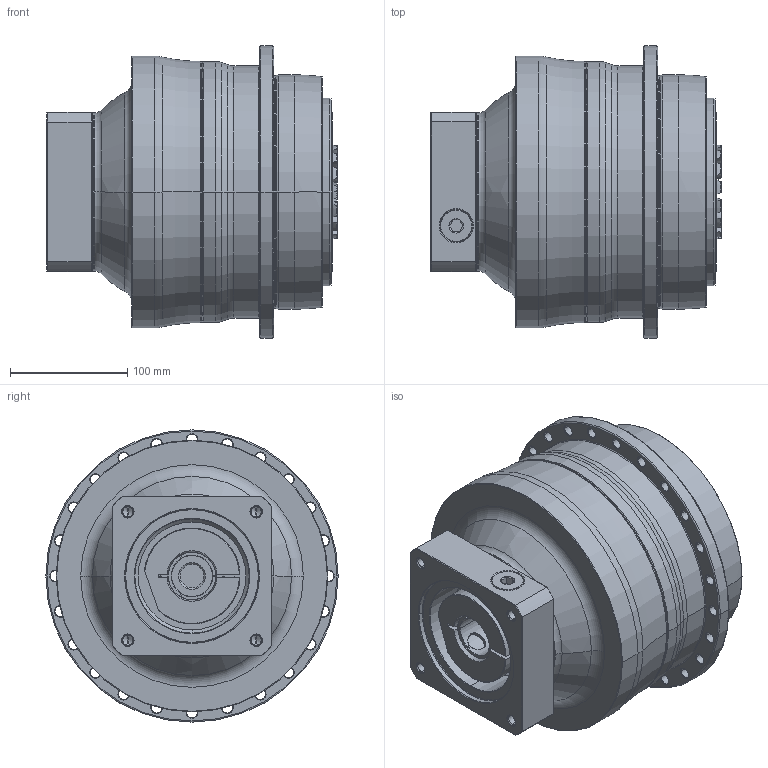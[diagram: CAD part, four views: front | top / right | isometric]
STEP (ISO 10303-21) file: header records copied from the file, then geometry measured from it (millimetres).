
FILE_DESCRIPTION((''),'2;1');
FILE_NAME('APC200_2ST_35-P0409800201_ASM','2018-06-28T',('d01226'),(''),'PRO/ENGINEER BY PARAMETRIC TECHNOLOGY CORPORATION, 2008410','PRO/ENGINEER BY PARAMETRIC TECHNOLOGY CORPORATION, 2008410','');
FILE_SCHEMA(('CONFIG_CONTROL_DESIGN'));
Length unit declared in the file: millimetre
Products named in the file (9): P0278601003; P0359660103; P1317610301; P0503800012; P0912503001; P1211600001; P0409800201; 21711422019; APC200_2ST_35-P0409800201_ASM
Assembly tree (8 placements, depth 2):
  APC200_2ST_35-P0409800201_ASM
    P0278601003
    P0359660103
    P1317610301
    P0503800012
    P0912503001
    P1211600001
    P0409800201
    21711422019
Bounding box: 247.6 x 249.5 x 249.5 mm (x, y, z)
Volume: 6987271 mm3; surface area: 564429.7 mm2
Topology: 9 solids, 19 shells, 677 faces, 1619 edges, 983 vertices
Faces by surface type: cone 224, cylinder 212, plane 121, torus 104, bspline 16
Entity records: 24958 total; most frequent: CARTESIAN_POINT 8800, DIRECTION 3629, ORIENTED_EDGE 3160, EDGE_CURVE 1601, AXIS2_PLACEMENT_3D 1575, VERTEX_POINT 983, CIRCLE 887, EDGE_LOOP 782
